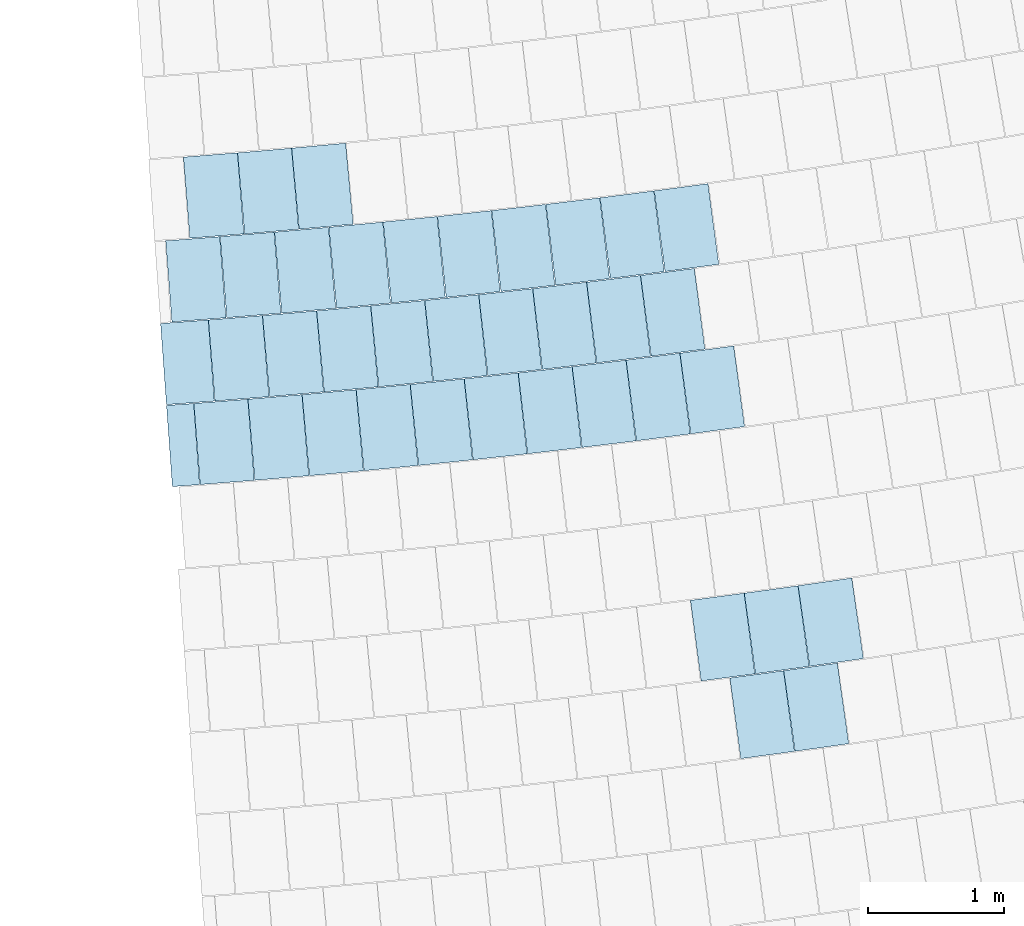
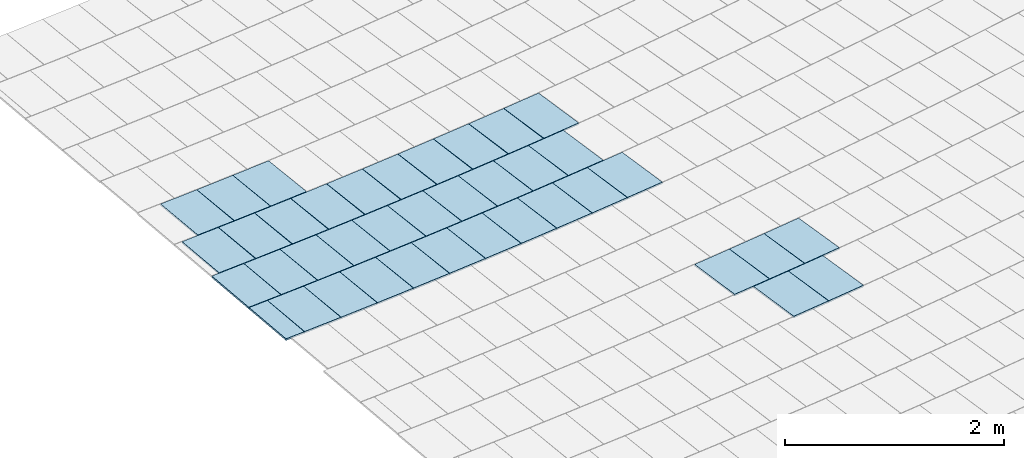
# One storey, part 44 of 438: 39 slabs.
"""IFC2X3 building model written with IfcOpenShell, lengths in millimetres."""

from ifc_helpers import new_model, entity, si_unit, converted_unit, derived_unit, direction, frame, frame_2d, origin, place, context, subcontext, project, spatial, polyline, rectangle, outline, extrude, material, layer, layer_set, layer_usage, type_object, element, save


model = new_model("IFC2X3")

# Units and contexts
model_context = context("Model", 3, precision=0.01, world=origin(), true_north=direction((6.123031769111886e-17, 1.0)))
body_context = subcontext(model_context, "Body", "Model", "MODEL_VIEW")
ifc_project = project(units=[si_unit("LENGTHUNIT", "METRE", prefix="MILLI"), si_unit("AREAUNIT", "SQUARE_METRE"), si_unit("VOLUMEUNIT", "CUBIC_METRE"), converted_unit("PLANEANGLEUNIT", "DEGREE", entity("IfcRatioMeasure", 0.017453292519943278), si_unit("PLANEANGLEUNIT", "RADIAN"), dimensions=[0, 0, 0, 0, 0, 0, 0]), si_unit("MASSUNIT", "GRAM", prefix="KILO"), derived_unit("MASSDENSITYUNIT", [(si_unit("MASSUNIT", "GRAM", prefix="KILO"), 1), (si_unit("LENGTHUNIT", "METRE"), -3)]), derived_unit("MOMENTOFINERTIAUNIT", [(si_unit("LENGTHUNIT", "METRE"), 4)]), si_unit("TIMEUNIT", "SECOND"), si_unit("FREQUENCYUNIT", "HERTZ"), si_unit("THERMODYNAMICTEMPERATUREUNIT", "DEGREE_CELSIUS"), derived_unit("THERMALTRANSMITTANCEUNIT", [(si_unit("MASSUNIT", "GRAM", prefix="KILO"), 1), (si_unit("THERMODYNAMICTEMPERATUREUNIT", "KELVIN"), -1), (si_unit("TIMEUNIT", "SECOND"), -3)]), derived_unit("THERMALCONDUCTANCEUNIT", [(si_unit("MASSUNIT", "GRAM", prefix="KILO"), 1), (si_unit("LENGTHUNIT", "METRE"), 1), (si_unit("THERMODYNAMICTEMPERATUREUNIT", "KELVIN"), -1), (si_unit("TIMEUNIT", "SECOND"), -3)]), derived_unit("VOLUMETRICFLOWRATEUNIT", [(si_unit("LENGTHUNIT", "METRE"), 3), (si_unit("TIMEUNIT", "SECOND"), -1)]), derived_unit("MASSFLOWRATEUNIT", [(si_unit("MASSUNIT", "GRAM", prefix="KILO"), 1), (si_unit("TIMEUNIT", "SECOND"), -1)]), derived_unit("ROTATIONALFREQUENCYUNIT", [(si_unit("TIMEUNIT", "SECOND"), -1)]), si_unit("ELECTRICCURRENTUNIT", "AMPERE"), si_unit("ELECTRICVOLTAGEUNIT", "VOLT"), si_unit("POWERUNIT", "WATT"), converted_unit("FORCEUNIT", "KIP", entity("IfcRatioMeasure", 2.088543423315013e-05), si_unit("FORCEUNIT", "NEWTON"), dimensions=[1, 1, -2, 0, 0, 0, 0]), si_unit("ILLUMINANCEUNIT", "LUX"), si_unit("LUMINOUSFLUXUNIT", "LUMEN"), si_unit("LUMINOUSINTENSITYUNIT", "CANDELA"), derived_unit("USERDEFINED", [(si_unit("MASSUNIT", "GRAM", prefix="KILO"), -1), (si_unit("LENGTHUNIT", "METRE"), -2), (si_unit("TIMEUNIT", "SECOND"), 3), (si_unit("LUMINOUSFLUXUNIT", "LUMEN"), 1)]), derived_unit("USERDEFINED", [(si_unit("MASSUNIT", "GRAM", prefix="KILO"), 1), (si_unit("LENGTHUNIT", "METRE"), 3), (si_unit("TIMEUNIT", "SECOND"), -3), (si_unit("ELECTRICCURRENTUNIT", "AMPERE"), -2)]), derived_unit("USERDEFINED", [(si_unit("LENGTHUNIT", "METRE"), 2), (si_unit("TIMEUNIT", "SECOND"), -2)]), derived_unit("SOUNDPOWERUNIT", [(si_unit("MASSUNIT", "GRAM", prefix="KILO"), 1), (si_unit("LENGTHUNIT", "METRE"), 2), (si_unit("TIMEUNIT", "SECOND"), -3)]), derived_unit("SOUNDPRESSUREUNIT", [(si_unit("MASSUNIT", "GRAM", prefix="KILO"), 1), (si_unit("LENGTHUNIT", "METRE"), -1), (si_unit("TIMEUNIT", "SECOND"), -2)]), derived_unit("LINEARVELOCITYUNIT", [(si_unit("LENGTHUNIT", "METRE"), 1), (si_unit("TIMEUNIT", "SECOND"), -1)]), si_unit("PRESSUREUNIT", "PASCAL"), derived_unit("USERDEFINED", [(si_unit("LENGTHUNIT", "METRE"), -2), (si_unit("MASSUNIT", "GRAM", prefix="KILO"), 1), (si_unit("TIMEUNIT", "SECOND"), -2)]), derived_unit("LINEARFORCEUNIT", [(si_unit("MASSUNIT", "GRAM", prefix="KILO"), 1), (si_unit("LENGTHUNIT", "METRE"), 1), (si_unit("TIMEUNIT", "SECOND"), -2), (si_unit("LENGTHUNIT", "METRE"), -1)]), derived_unit("PLANARFORCEUNIT", [(si_unit("MASSUNIT", "GRAM", prefix="KILO"), 1), (si_unit("LENGTHUNIT", "METRE"), 1), (si_unit("TIMEUNIT", "SECOND"), -2), (si_unit("LENGTHUNIT", "METRE"), -2)]), derived_unit("SPECIFICHEATCAPACITYUNIT", [(si_unit("LENGTHUNIT", "METRE"), 2), (si_unit("TIMEUNIT", "SECOND"), -2), (si_unit("THERMODYNAMICTEMPERATUREUNIT", "KELVIN"), -1)]), derived_unit("VAPORPERMEABILITYUNIT", [(si_unit("TIMEUNIT", "SECOND"), 1), (si_unit("LENGTHUNIT", "METRE"), -1)]), derived_unit("DYNAMICVISCOSITYUNIT", [(si_unit("MASSUNIT", "GRAM", prefix="KILO"), 1), (si_unit("LENGTHUNIT", "METRE"), -1), (si_unit("TIMEUNIT", "SECOND"), -1)]), derived_unit("THERMALEXPANSIONCOEFFICIENTUNIT", [(si_unit("THERMODYNAMICTEMPERATUREUNIT", "KELVIN"), -1)])], contexts=[model_context])

# Site, building, storey
site_placement = place(None, frame((0.0, 0.0, 0.0), z_axis=(0.0, 0.0, 1.0), x_axis=(0.8191520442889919, 0.5735764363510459, 0.0)))
site = spatial("IfcSite", under=ifc_project, at=site_placement, Name="Default", CompositionType="ELEMENT")
building_placement = place(site_placement, origin())
building = spatial("IfcBuilding", under=site, at=building_placement, CompositionType="ELEMENT")
storey_placement = place(building_placement, origin())
storey = spatial("IfcBuildingStorey", under=building, at=storey_placement, Name="PLAN", CompositionType="ELEMENT", Elevation=0.0)

# Slabs
ifc_material = material(Name="Paint-01")
ifc_layer = layer(ifc_material, 20.00000000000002)
ifc_layer_set = layer_set([ifc_layer], Name="Floor:Slab-179:1000")
ifc_layer_usage = layer_usage(ifc_layer_set, "AXIS3", "POSITIVE", 0.0)
slab_type = type_object("IfcSlabType", Name="Floor:Slab-179:1000", PredefinedType="FLOOR", material=ifc_layer_set)
slab_1_placement = place(storey_placement, origin())
element("IfcSlab", 1, at=slab_1_placement, inside=storey, type_object=slab_type, material=ifc_layer_usage, Name="Floor:Slab-179:1000", ObjectType="Floor:Slab-179:1000", PredefinedType="FLOOR", context=body_context, shape_type="SweptSolid", body=[
    extrude(outline(polyline([(-300.0000010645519, -200.00000294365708), (299.99999893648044, -200.0000029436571), (300.00000106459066, 200.0000029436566), (-299.9999989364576, 200.00000294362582), (-300.0000010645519, -200.00000294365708)])), frame((-71253.48134538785, -127904.05147421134, 20.0), z_axis=(0.0, 0.0, -1.0), x_axis=(-0.45848020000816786, -0.8887046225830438, 0.0)), (0.0, 0.0, 1.0), 20.00000000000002),
])
slab_2_placement = place(storey_placement, origin())
element("IfcSlab", 2, at=slab_2_placement, inside=storey, type_object=slab_type, material=ifc_layer_usage, Name="Floor:Slab-179:1000", ObjectType="Floor:Slab-179:1000", PredefinedType="FLOOR", context=body_context, shape_type="SweptSolid", body=[
    extrude(outline(polyline([(-300.0000010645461, -200.0000029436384), (299.99999893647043, -200.00000294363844), (300.0000010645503, 200.0000029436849), (-299.9999989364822, 200.00000294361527), (-300.0000010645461, -200.0000029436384)])), frame((-70895.86632913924, -128087.19781315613, 20.0), z_axis=(0.0, 0.0, -1.0), x_axis=(-0.45317945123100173, -0.8914193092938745, 0.0)), (0.0, 0.0, 1.0), 20.00000000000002),
])
slab_3_placement = place(storey_placement, origin())
element("IfcSlab", 3, at=slab_3_placement, inside=storey, type_object=slab_type, material=ifc_layer_usage, Name="Floor:Slab-179:1000", ObjectType="Floor:Slab-179:1000", PredefinedType="FLOOR", context=body_context, shape_type="SweptSolid", body=[
    extrude(outline(polyline([(-300.00000106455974, -200.0000029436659), (299.9999989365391, -200.00000294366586), (300.0000010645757, 200.00000294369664), (-299.99999893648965, 200.00000294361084), (-300.00000106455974, -200.0000029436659)])), frame((-71164.13766666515, -127269.0, 20.0), z_axis=(0.0, 0.0, -1.0), x_axis=(-0.4612925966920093, -0.8872480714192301, 0.0)), (0.0, 0.0, 1.0), 20.00000000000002),
])
slab_4_placement = place(storey_placement, origin())
element("IfcSlab", 4, at=slab_4_placement, inside=storey, type_object=slab_type, material=ifc_layer_usage, Name="Floor:Slab-179:1000", ObjectType="Floor:Slab-179:1000", PredefinedType="FLOOR", context=body_context, shape_type="SweptSolid", body=[
    extrude(outline(polyline([(-300.00000106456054, -200.0000029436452), (299.9999989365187, -200.00000294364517), (300.0000010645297, 200.00000294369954), (-299.9999989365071, 200.00000294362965), (-300.00000106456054, -200.0000029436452)])), frame((-70448.93159105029, -127635.40275889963, 20.0), z_axis=(0.0, 0.0, -1.0), x_axis=(-0.4505955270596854, -0.8927282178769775, 0.0)), (0.0, 0.0, 1.0), 20.00000000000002),
])
slab_5_placement = place(storey_placement, origin())
element("IfcSlab", 5, at=slab_5_placement, inside=storey, type_object=slab_type, material=ifc_layer_usage, Name="Floor:Slab-179:1000", ObjectType="Floor:Slab-179:1000", PredefinedType="FLOOR", context=body_context, shape_type="SweptSolid", body=[
    extrude(outline(polyline([(-300.00000106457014, -200.00000294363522), (299.99999893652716, -200.00000294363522), (300.00000106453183, 200.00000294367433), (-299.99999893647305, 200.00000294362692), (-300.00000106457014, -200.00000294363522)])), frame((-70807.08511352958, -127453.27599119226, 20.0), z_axis=(0.0, 0.0, -1.0), x_axis=(-0.45595229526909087, -0.8900042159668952, 0.0)), (0.0, 0.0, 1.0), 20.00000000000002),
])
slab_6_placement = place(storey_placement, origin())
element("IfcSlab", 6, at=slab_6_placement, inside=storey, type_object=slab_type, material=ifc_layer_usage, Name="Floor:Slab-179:1000", ObjectType="Floor:Slab-179:1000", PredefinedType="FLOOR", context=body_context, shape_type="SweptSolid", body=[
    extrude(outline(polyline([(-300.0000010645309, -200.0000029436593), (299.99999893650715, -200.00000294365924), (300.0000010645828, 200.00000294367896), (-299.9999989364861, 200.00000294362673), (-300.0000010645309, -200.0000029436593)])), frame((-73347.79539254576, -123984.69286428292, 20.0), z_axis=(0.0, 0.0, -1.0), x_axis=(-0.5077358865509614, -0.8615127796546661, 0.0)), (0.0, 0.0, 1.0), 20.00000000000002),
])
slab_7_placement = place(storey_placement, origin())
element("IfcSlab", 7, at=slab_7_placement, inside=storey, type_object=slab_type, material=ifc_layer_usage, Name="Floor:Slab-179:1000", ObjectType="Floor:Slab-179:1000", PredefinedType="FLOOR", context=body_context, shape_type="SweptSolid", body=[
    extrude(outline(polyline([(-300.0000010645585, -200.0000029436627), (299.9999989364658, -200.0000029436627), (300.00000106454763, 200.00000294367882), (-299.99999893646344, 200.0000029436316), (-300.0000010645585, -200.0000029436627)])), frame((-72303.58029260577, -124587.13754614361, 20.0), z_axis=(0.0, 0.0, -1.0), x_axis=(-0.49168215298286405, -0.8707747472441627, 0.0)), (0.0, 0.0, 1.0), 20.00000000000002),
])
slab_8_placement = place(storey_placement, origin())
element("IfcSlab", 8, at=slab_8_placement, inside=storey, type_object=slab_type, material=ifc_layer_usage, Name="Floor:Slab-179:1000", ObjectType="Floor:Slab-179:1000", PredefinedType="FLOOR", context=body_context, shape_type="SweptSolid", body=[
    extrude(outline(polyline([(-300.000001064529, -200.00000294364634), (299.99999893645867, -200.00000294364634), (300.0000010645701, 200.00000294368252), (-299.99999893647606, 200.00000294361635), (-300.000001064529, -200.00000294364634)])), frame((-73000.96656191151, -124187.65690356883, 20.0), z_axis=(0.0, 0.0, -1.0), x_axis=(-0.5024037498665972, -0.8646331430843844, 0.0)), (0.0, 0.0, 1.0), 20.00000000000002),
])
slab_9_placement = place(storey_placement, origin())
element("IfcSlab", 9, at=slab_9_placement, inside=storey, type_object=slab_type, material=ifc_layer_usage, Name="Floor:Slab-179:1000", ObjectType="Floor:Slab-179:1000", PredefinedType="FLOOR", context=body_context, shape_type="SweptSolid", body=[
    extrude(outline(polyline([(-300.0000010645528, -200.0000029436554), (299.9999989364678, -200.00000294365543), (300.00000106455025, 200.00000294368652), (-299.99999893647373, 200.00000294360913), (-300.0000010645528, -200.0000029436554)])), frame((-71953.04947201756, -124783.63890191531, 20.0), z_axis=(0.0, 0.0, -1.0), x_axis=(-0.48629310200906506, -0.8737957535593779, 0.0)), (0.0, 0.0, 1.0), 20.00000000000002),
])
slab_10_placement = place(storey_placement, origin())
element("IfcSlab", 10, at=slab_10_placement, inside=storey, type_object=slab_type, material=ifc_layer_usage, Name="Floor:Slab-179:1000", ObjectType="Floor:Slab-179:1000", PredefinedType="FLOOR", context=body_context, shape_type="SweptSolid", body=[
    extrude(outline(polyline([(-300.00000106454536, -200.0000029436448), (299.99999893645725, -200.0000029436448), (300.00000106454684, 200.00000294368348), (-299.9999989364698, 200.00000294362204), (-300.00000106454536, -200.0000029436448)])), frame((-71601.31135085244, -124977.97091966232, 20.0), z_axis=(0.0, 0.0, -1.0), x_axis=(-0.480885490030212, -0.8767834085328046, 0.0)), (0.0, 0.0, 1.0), 20.00000000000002),
])
slab_11_placement = place(storey_placement, origin())
element("IfcSlab", 11, at=slab_11_placement, inside=storey, type_object=slab_type, material=ifc_layer_usage, Name="Floor:Slab-179:1000", ObjectType="Floor:Slab-179:1000", PredefinedType="FLOOR", context=body_context, shape_type="SweptSolid", body=[
    extrude(outline(polyline([(-300.0000010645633, -200.00000294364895), (299.9999989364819, -200.0000029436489), (300.00000106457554, 200.00000294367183), (-299.9999989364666, 200.00000294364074), (-300.0000010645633, -200.00000294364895)])), frame((-70894.26695341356, -125360.09735483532, 20.0), z_axis=(0.0, 0.0, -1.0), x_axis=(-0.47001540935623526, -0.8826582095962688, 0.0)), (0.0, 0.0, 1.0), 20.000000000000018),
])
slab_12_placement = place(storey_placement, origin())
element("IfcSlab", 12, at=slab_12_placement, inside=storey, type_object=slab_type, material=ifc_layer_usage, Name="Floor:Slab-179:1000", ObjectType="Floor:Slab-179:1000", PredefinedType="FLOOR", context=body_context, shape_type="SweptSolid", body=[
    extrude(outline(polyline([(-300.00000106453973, -200.00000294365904), (299.99999893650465, -200.000002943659), (300.0000010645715, 200.00000294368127), (-299.9999989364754, 200.00000294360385), (-300.00000106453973, -200.00000294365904)])), frame((-71248.37935437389, -125170.12618205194, 20.0), z_axis=(0.0, 0.0, -1.0), x_axis=(-0.4754595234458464, -0.8797375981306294, 0.0)), (0.0, 0.0, 1.0), 20.00000000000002),
])
slab_13_placement = place(storey_placement, origin())
element("IfcSlab", 13, at=slab_13_placement, inside=storey, type_object=slab_type, material=ifc_layer_usage, Name="Floor:Slab-179:1000", ObjectType="Floor:Slab-179:1000", PredefinedType="FLOOR", context=body_context, shape_type="SweptSolid", body=[
    extrude(outline(polyline([(-300.00000106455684, -200.00000294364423), (299.99999893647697, -200.0000029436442), (300.0000010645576, 200.00000294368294), (-299.99999893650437, 200.00000294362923), (-300.00000106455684, -200.00000294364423)])), frame((-70538.9876638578, -125547.87718712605, 20.0), z_axis=(0.0, 0.0, -1.0), x_axis=(-0.4645533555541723, -0.8855451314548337, 0.0)), (0.0, 0.0, 1.0), 20.00000000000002),
])
slab_14_placement = place(storey_placement, origin())
element("IfcSlab", 14, at=slab_14_placement, inside=storey, type_object=slab_type, material=ifc_layer_usage, Name="Floor:Slab-179:1000", ObjectType="Floor:Slab-179:1000", PredefinedType="FLOOR", context=body_context, shape_type="SweptSolid", body=[
    extrude(outline(polyline([(-300.00000106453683, -200.00000294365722), (299.9999989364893, -200.00000294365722), (300.00000106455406, 200.00000294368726), (-299.99999893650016, 200.0000029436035), (-300.00000106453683, -200.00000294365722)])), frame((-72652.89043343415, -124388.47435247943, 20.0), z_axis=(0.0, 0.0, -1.0), x_axis=(-0.49705243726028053, -0.8677205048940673, 0.0)), (0.0, 0.0, 1.0), 20.00000000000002),
])
slab_15_placement = place(storey_placement, origin())
element("IfcSlab", 15, at=slab_15_placement, inside=storey, type_object=slab_type, material=ifc_layer_usage, Name="Floor:Slab-179:1000", ObjectType="Floor:Slab-179:1000", PredefinedType="FLOOR", context=body_context, shape_type="SweptSolid", body=[
    extrude(outline(polyline([(-300.0000010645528, -200.00000294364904), (299.999998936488, -200.00000294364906), (300.00000106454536, 200.00000294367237), (-299.99999893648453, 200.000002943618), (-300.0000010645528, -200.00000294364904)])), frame((-70182.55504613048, -125733.45851167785, 20.0), z_axis=(0.0, 0.0, -1.0), x_axis=(-0.45907357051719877, -0.888398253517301, 0.0)), (0.0, 0.0, 1.0), 20.00000000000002),
])
slab_16_placement = place(storey_placement, origin())
element("IfcSlab", 16, at=slab_16_placement, inside=storey, type_object=slab_type, material=ifc_layer_usage, Name="Floor:Slab-179:1000", ObjectType="Floor:Slab-179:1000", PredefinedType="FLOOR", context=body_context, shape_type="SweptSolid", body=[
    extrude(outline(polyline([(-300.0000010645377, -200.00000294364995), (299.9999989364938, -200.00000294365), (300.00000106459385, 200.00000294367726), (-299.99999893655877, 200.00000294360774), (-300.0000010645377, -200.00000294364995)])), frame((-72906.23989506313, -123542.44989851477, 20.0), z_axis=(0.0, 0.0, -1.0), x_axis=(-0.505676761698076, -0.8627230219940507, 0.0)), (0.0, 0.0, 1.0), 20.00000000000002),
])
slab_17_placement = place(storey_placement, origin())
element("IfcSlab", 17, at=slab_17_placement, inside=storey, type_object=slab_type, material=ifc_layer_usage, Name="Floor:Slab-179:1000", ObjectType="Floor:Slab-179:1000", PredefinedType="FLOOR", context=body_context, shape_type="SweptSolid", body=[
    extrude(outline(polyline([(-300.00000106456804, -200.00000294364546), (299.9999989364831, -200.00000294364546), (300.00000106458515, 200.0000029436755), (-299.99999893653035, 200.0000029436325), (-300.00000106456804, -200.00000294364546)])), frame((-72210.306749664, -123944.52628262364, 20.0), z_axis=(0.0, 0.0, -1.0), x_axis=(-0.4948772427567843, -0.8689628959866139, 0.0)), (0.0, 0.0, 1.0), 20.00000000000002),
])
slab_18_placement = place(storey_placement, origin())
element("IfcSlab", 18, at=slab_18_placement, inside=storey, type_object=slab_type, material=ifc_layer_usage, Name="Floor:Slab-179:1000", ObjectType="Floor:Slab-179:1000", PredefinedType="FLOOR", context=body_context, shape_type="SweptSolid", body=[
    extrude(outline(polyline([(-300.0000010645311, -200.00000294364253), (299.99999893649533, -200.00000294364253), (300.0000010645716, 200.00000294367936), (-299.99999893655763, 200.00000294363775), (-300.0000010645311, -200.00000294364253)])), frame((-71860.47311507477, -124142.30163177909, 20.0), z_axis=(0.0, 0.0, -1.0), x_axis=(-0.4894485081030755, -0.8720322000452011, 0.0)), (0.0, 0.0, 1.0), 20.00000000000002),
])
slab_19_placement = place(storey_placement, origin())
element("IfcSlab", 19, at=slab_19_placement, inside=storey, type_object=slab_type, material=ifc_layer_usage, Name="Floor:Slab-179:1000", ObjectType="Floor:Slab-179:1000", PredefinedType="FLOOR", context=body_context, shape_type="SweptSolid", body=[
    extrude(rectangle(XDim=599.9999671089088, YDim=399.999983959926, at=frame_2d((5.343281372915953e-12, -8.08597633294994e-12), x_axis=(1.0, 0.0))), frame((-72558.847279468, -123744.68013137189, 20.0), z_axis=(0.0, 0.0, -1.0), x_axis=(-0.5000000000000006, -0.8660254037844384, 0.0)), (0.0, 0.0, 1.0), 20.00000000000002),
])
slab_20_placement = place(storey_placement, origin())
element("IfcSlab", 20, at=slab_20_placement, inside=storey, type_object=slab_type, material=ifc_layer_usage, Name="Floor:Slab-179:1000", ObjectType="Floor:Slab-179:1000", PredefinedType="FLOOR", context=body_context, shape_type="SweptSolid", body=[
    extrude(outline(polyline([(-300.0000010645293, -200.00000294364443), (299.9999989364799, -200.00000294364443), (300.0000010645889, 200.00000294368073), (-299.9999989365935, 200.00000294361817), (-300.0000010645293, -200.00000294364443)])), frame((-71509.41289735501, -124337.89146831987, 20.0), z_axis=(0.0, 0.0, -1.0), x_axis=(-0.48400073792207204, -0.8750675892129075, 0.0)), (0.0, 0.0, 1.0), 20.00000000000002),
])
slab_21_placement = place(storey_placement, origin())
element("IfcSlab", 21, at=slab_21_placement, inside=storey, type_object=slab_type, material=ifc_layer_usage, Name="Floor:Slab-179:1000", ObjectType="Floor:Slab-179:1000", PredefinedType="FLOOR", context=body_context, shape_type="SweptSolid", body=[
    extrude(outline(polyline([(-300.00000106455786, -200.0000029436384), (299.99999893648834, -200.00000294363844), (300.0000010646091, 200.00000294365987), (-299.9999989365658, 200.0000029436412), (-300.00000106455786, -200.0000029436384)])), frame((-71157.13974986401, -124531.28818540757, 20.0), z_axis=(0.0, 0.0, -1.0), x_axis=(-0.4785341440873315, -0.8780689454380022, 0.0)), (0.0, 0.0, 1.0), 20.00000000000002),
])
slab_22_placement = place(storey_placement, origin())
element("IfcSlab", 22, at=slab_22_placement, inside=storey, type_object=slab_type, material=ifc_layer_usage, Name="Floor:Slab-179:1000", ObjectType="Floor:Slab-179:1000", PredefinedType="FLOOR", context=body_context, shape_type="SweptSolid", body=[
    extrude(outline(polyline([(-300.00000106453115, -200.00000294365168), (299.9999989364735, -200.00000294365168), (300.00000106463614, 200.00000294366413), (-299.99999893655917, 200.00000294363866), (-300.00000106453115, -200.00000294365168)])), frame((-70803.66737313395, -124722.48426149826, 20.0), z_axis=(0.0, 0.0, -1.0), x_axis=(-0.4730489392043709, -0.881036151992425, 0.0)), (0.0, 0.0, 1.0), 20.00000000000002),
])
slab_23_placement = place(storey_placement, origin())
element("IfcSlab", 23, at=slab_23_placement, inside=storey, type_object=slab_type, material=ifc_layer_usage, Name="Floor:Slab-179:1000", ObjectType="Floor:Slab-179:1000", PredefinedType="FLOOR", context=body_context, shape_type="SweptSolid", body=[
    extrude(outline(polyline([(-300.0000010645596, -200.0000029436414), (299.99999893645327, -200.0000029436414), (300.0000010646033, 200.0000029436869), (-299.9999989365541, 200.00000294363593), (-300.0000010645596, -200.0000029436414)])), frame((-70449.00951433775, -124911.47226063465, 20.0), z_axis=(0.0, 0.0, -1.0), x_axis=(-0.46754533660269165, -0.8839690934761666, 0.0)), (0.0, 0.0, 1.0), 20.00000000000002),
])
slab_24_placement = place(storey_placement, origin())
element("IfcSlab", 24, at=slab_24_placement, inside=storey, type_object=slab_type, material=ifc_layer_usage, Name="Floor:Slab-179:1000", ObjectType="Floor:Slab-179:1000", PredefinedType="FLOOR", context=body_context, shape_type="SweptSolid", body=[
    extrude(outline(polyline([(-300.0000010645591, -200.00000294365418), (299.99999893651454, -200.00000294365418), (300.00000106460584, 200.0000029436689), (-299.9999989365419, 200.00000294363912), (-300.0000010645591, -200.00000294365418)])), frame((-70093.17996675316, -125098.24483273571, 20.0), z_axis=(0.0, 0.0, -1.0), x_axis=(-0.4620235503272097, -0.8868676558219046, 0.0)), (0.0, 0.0, 1.0), 20.00000000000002),
])
slab_25_placement = place(storey_placement, origin())
element("IfcSlab", 25, at=slab_25_placement, inside=storey, type_object=slab_type, material=ifc_layer_usage, Name="Floor:Slab-179:1000", ObjectType="Floor:Slab-179:1000", PredefinedType="FLOOR", context=body_context, shape_type="SweptSolid", body=[
    extrude(outline(polyline([(-300.0000010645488, -200.00000294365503), (299.9999989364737, -200.00000294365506), (300.00000106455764, 200.00000294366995), (-299.9999989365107, 200.00000294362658), (-300.0000010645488, -200.00000294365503)])), frame((-72831.00224871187, -122884.64401618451, 20.0), z_axis=(0.0, 0.0, -1.0), x_axis=(-0.5092643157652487, -0.8606101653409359, 0.0)), (0.0, 0.0, 1.0), 20.00000000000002),
])
slab_26_placement = place(storey_placement, origin())
element("IfcSlab", 26, at=slab_26_placement, inside=storey, type_object=slab_type, material=ifc_layer_usage, Name="Floor:Slab-179:1000", ObjectType="Floor:Slab-179:1000", PredefinedType="FLOOR", context=body_context, shape_type="SweptSolid", body=[
    extrude(outline(polyline([(-300.00000106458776, -200.00000294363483), (299.99999893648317, -200.00000294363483), (300.0000010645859, 200.00000294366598), (-299.99999893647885, 200.0000029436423), (-300.00000106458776, -200.00000294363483)])), frame((-72482.82316092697, -123089.1941355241, 20.0), z_axis=(0.0, 0.0, -1.0), x_axis=(-0.5038099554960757, -0.8638145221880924, 0.0)), (0.0, 0.0, 1.0), 20.00000000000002),
])
slab_27_placement = place(storey_placement, origin())
element("IfcSlab", 27, at=slab_27_placement, inside=storey, type_object=slab_type, material=ifc_layer_usage, Name="Floor:Slab-179:1000", ObjectType="Floor:Slab-179:1000", PredefinedType="FLOOR", context=body_context, shape_type="SweptSolid", body=[
    extrude(outline(polyline([(-300.00000106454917, -200.00000294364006), (299.99999893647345, -200.00000294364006), (300.0000010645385, 200.0000029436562), (-299.9999989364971, 200.00000294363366), (-300.00000106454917, -200.00000294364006)])), frame((-72133.35706755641, -123291.53760114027, 20.0), z_axis=(0.0, 0.0, -1.0), x_axis=(-0.4983354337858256, -0.8669843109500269, 0.0)), (0.0, 0.0, 1.0), 20.00000000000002),
])
slab_28_placement = place(storey_placement, origin())
element("IfcSlab", 28, at=slab_28_placement, inside=storey, type_object=slab_type, material=ifc_layer_usage, Name="Floor:Slab-179:1000", ObjectType="Floor:Slab-179:1000", PredefinedType="FLOOR", context=body_context, shape_type="SweptSolid", body=[
    extrude(outline(polyline([(-300.00000106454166, -200.00000294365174), (299.999998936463, -200.00000294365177), (300.0000010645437, 200.00000294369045), (-299.99999893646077, 200.00000294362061), (-300.00000106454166, -200.00000294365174)])), frame((-71782.61795351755, -123491.66631566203, 20.0), z_axis=(0.0, 0.0, -1.0), x_axis=(-0.49284096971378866, -0.870119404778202, 0.0)), (0.0, 0.0, 1.0), 20.000000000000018),
])
slab_29_placement = place(storey_placement, origin())
element("IfcSlab", 29, at=slab_29_placement, inside=storey, type_object=slab_type, material=ifc_layer_usage, Name="Floor:Slab-179:1000", ObjectType="Floor:Slab-179:1000", PredefinedType="FLOOR", context=body_context, shape_type="SweptSolid", body=[
    extrude(outline(polyline([(-300.00000106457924, -200.00000294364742), (299.9999989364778, -200.00000294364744), (300.0000010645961, 200.0000029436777), (-299.999998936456, 200.00000294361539), (-300.00000106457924, -200.00000294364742)])), frame((-71430.61985466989, -123689.57227034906, 20.0), z_axis=(0.0, 0.0, -1.0), x_axis=(-0.48732678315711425, -0.8732196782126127, 0.0)), (0.0, 0.0, 1.0), 20.00000000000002),
])
slab_30_placement = place(storey_placement, origin())
element("IfcSlab", 30, at=slab_30_placement, inside=storey, type_object=slab_type, material=ifc_layer_usage, Name="Floor:Slab-179:1000", ObjectType="Floor:Slab-179:1000", PredefinedType="FLOOR", context=body_context, shape_type="SweptSolid", body=[
    extrude(outline(polyline([(-300.0000010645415, -200.0000029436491), (299.9999989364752, -200.00000294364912), (300.00000106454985, 200.0000029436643), (-299.9999989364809, 200.00000294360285), (-300.0000010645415, -200.0000029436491)])), frame((-71077.37685725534, -123885.2475454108, 20.0), z_axis=(0.0, 0.0, -1.0), x_axis=(-0.48179309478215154, -0.8762850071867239, 0.0)), (0.0, 0.0, 1.0), 20.00000000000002),
])
slab_31_placement = place(storey_placement, origin())
element("IfcSlab", 31, at=slab_31_placement, inside=storey, type_object=slab_type, material=ifc_layer_usage, Name="Floor:Slab-179:1000", ObjectType="Floor:Slab-179:1000", PredefinedType="FLOOR", context=body_context, shape_type="SweptSolid", body=[
    extrude(outline(polyline([(-300.00000106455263, -200.000002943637), (299.99999893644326, -200.000002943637), (300.00000106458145, 200.0000029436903), (-299.99999893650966, 200.00000294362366), (-300.00000106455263, -200.000002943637)])), frame((-70722.903097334, -124078.68431032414, 20.0), z_axis=(0.0, 0.0, -1.0), x_axis=(-0.47624012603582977, -0.8793152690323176, 0.0)), (0.0, 0.0, 1.0), 20.00000000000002),
])
slab_32_placement = place(storey_placement, origin())
element("IfcSlab", 32, at=slab_32_placement, inside=storey, type_object=slab_type, material=ifc_layer_usage, Name="Floor:Slab-179:1000", ObjectType="Floor:Slab-179:1000", PredefinedType="FLOOR", context=body_context, shape_type="SweptSolid", body=[
    extrude(outline(polyline([(-300.00000106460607, -200.00000294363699), (299.99999893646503, -200.00000294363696), (300.0000010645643, 200.00000294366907), (-299.9999989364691, 200.0000029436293), (-300.00000106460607, -200.00000294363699)])), frame((-70367.21276021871, -124269.87482414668, 20.0), z_axis=(0.0, 0.0, -1.0), x_axis=(-0.47066809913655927, -0.8823103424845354, 0.0)), (0.0, 0.0, 1.0), 20.000000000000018),
])
slab_33_placement = place(storey_placement, origin())
element("IfcSlab", 33, at=slab_33_placement, inside=storey, type_object=slab_type, material=ifc_layer_usage, Name="Floor:Slab-179:1000", ObjectType="Floor:Slab-179:1000", PredefinedType="FLOOR", context=body_context, shape_type="SweptSolid", body=[
    extrude(outline(polyline([(-300.0000010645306, -200.00000294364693), (299.9999989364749, -200.00000294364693), (300.00000106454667, 200.00000294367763), (-299.99999893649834, 200.00000294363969), (-300.0000010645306, -200.00000294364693)])), frame((-70010.32007990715, -124458.81143582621, 20.0), z_axis=(0.0, 0.0, -1.0), x_axis=(-0.4650772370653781, -0.8852701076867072, 0.0)), (0.0, 0.0, 1.0), 20.000000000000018),
])
slab_34_placement = place(storey_placement, origin())
element("IfcSlab", 34, at=slab_34_placement, inside=storey, type_object=slab_type, material=ifc_layer_usage, Name="Floor:Slab-179:1000", ObjectType="Floor:Slab-179:1000", PredefinedType="FLOOR", context=body_context, shape_type="SweptSolid", body=[
    extrude(outline(polyline([(-300.0000010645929, -200.00000294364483), (299.9999989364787, -200.00000294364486), (300.0000010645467, 200.00000294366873), (-299.9999989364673, 200.0000029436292), (-300.0000010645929, -200.00000294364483)])), frame((-69652.23933851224, -124645.48658450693, 20.0), z_axis=(0.0, 0.0, -1.0), x_axis=(-0.45946776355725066, -0.8881944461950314, 0.0)), (0.0, 0.0, 1.0), 20.000000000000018),
])
slab_35_placement = place(storey_placement, origin())
element("IfcSlab", 35, at=slab_35_placement, inside=storey, type_object=slab_type, material=ifc_layer_usage, Name="Floor:Slab-179:1000", ObjectType="Floor:Slab-179:1000", PredefinedType="FLOOR", context=body_context, shape_type="SweptSolid", body=[
    extrude(outline(polyline([(-300.0000010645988, -200.00000294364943), (299.9999989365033, -200.00000294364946), (300.00000106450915, 200.00000294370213), (-299.9999989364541, 200.00000294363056), (-300.0000010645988, -200.00000294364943)])), frame((-72369.58952320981, -122454.40335937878, 20.0), z_axis=(0.0, 0.0, -1.0), x_axis=(-0.5068397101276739, -0.8620403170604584, 0.0)), (0.0, 0.0, 1.0), 20.000000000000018),
])
slab_36_placement = place(storey_placement, origin())
element("IfcSlab", 36, at=slab_36_placement, inside=storey, type_object=slab_type, material=ifc_layer_usage, Name="Floor:Slab-179:1000", ObjectType="Floor:Slab-179:1000", PredefinedType="FLOOR", context=body_context, shape_type="SweptSolid", body=[
    extrude(rectangle(XDim=599.9992701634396, YDim=399.99951933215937, at=frame_2d((-2.1600499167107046e-12, -3.737454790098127e-12), x_axis=(1.0, 0.0))), frame((-72022.23643672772, -122657.50670178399, 20.0), z_axis=(0.0, 0.0, -1.0), x_axis=(-0.5000000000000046, -0.8660254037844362, 0.0)), (0.0, 0.0, 1.0), 20.000000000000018),
])
slab_37_placement = place(storey_placement, origin())
element("IfcSlab", 37, at=slab_37_placement, inside=storey, type_object=slab_type, material=ifc_layer_usage, Name="Floor:Slab-179:1000", ObjectType="Floor:Slab-179:1000", PredefinedType="FLOOR", context=body_context, shape_type="SweptSolid", body=[
    extrude(outline(polyline([(-300.0000010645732, -200.00000294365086), (299.99999893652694, -200.00000294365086), (300.0000010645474, 200.00000294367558), (-299.9999989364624, 200.00000294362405), (-300.0000010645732, -200.00000294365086)])), frame((-71674.1011177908, -122857.39145819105, 20.0), z_axis=(0.0, 0.0, -1.0), x_axis=(-0.4958403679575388, -0.868413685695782, 0.0)), (0.0, 0.0, 1.0), 20.00000000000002),
])
slab_38_placement = place(storey_placement, origin())
element("IfcSlab", 38, at=slab_38_placement, inside=storey, type_object=slab_type, material=ifc_layer_usage, Name="Floor:Slab-179:1000", ObjectType="Floor:Slab-179:1000", PredefinedType="FLOOR", context=body_context, shape_type="SweptSolid", body=[
    extrude(outline(polyline([(-300.0, -100.78823928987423), (300.0, -100.78823928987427), (300.0, 100.79551029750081), (-300.0, 100.78096828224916), (-300.0, -100.78823928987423)])), frame((-73608.20432399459, -123830.4904417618, 20.0), z_axis=(0.0, 0.0, -1.0), x_axis=(-0.5130486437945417, -0.8583595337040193, 0.0)), (0.0, 0.0, 1.0), 20.00000000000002),
])
slab_39_placement = place(storey_placement, origin())
element("IfcSlab", 39, at=slab_39_placement, inside=storey, type_object=slab_type, material=ifc_layer_usage, Name="Floor:Slab-179:1000", ObjectType="Floor:Slab-179:1000", PredefinedType="FLOOR", context=body_context, shape_type="SweptSolid", body=[
    extrude(outline(polyline([(-300.00000094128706, -176.8350609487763), (299.999999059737, -176.83506094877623), (300.0000009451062, 177.5413853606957), (-299.9999990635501, 176.1287365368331), (-300.00000094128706, -176.8350609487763)])), frame((-73232.40085141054, -123350.00287795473, 20.0), z_axis=(0.0, 0.0, -1.0), x_axis=(-0.5110471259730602, -0.85955269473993, 0.0)), (0.0, 0.0, 1.0), 20.00000000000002),
])

save(model, "model.ifc")
